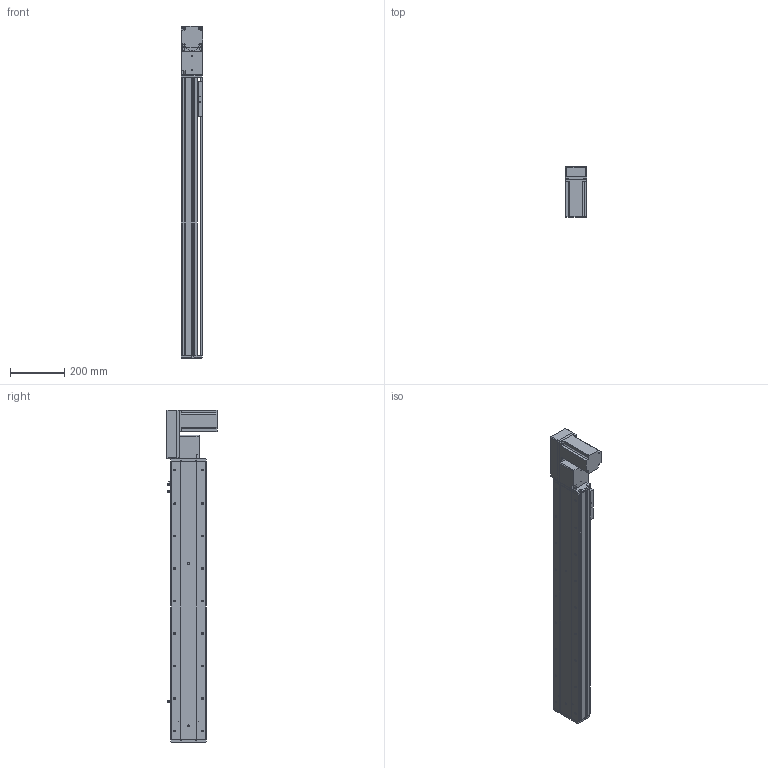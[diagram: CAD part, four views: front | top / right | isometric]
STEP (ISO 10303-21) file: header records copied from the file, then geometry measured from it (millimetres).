
FILE_DESCRIPTION (( 'STEP AP214' ), '1' );
FILE_NAME ('KSD130B-S800-MRB-CM.STEP', '2019-09-21T06:55:50', ( '微软用户' ), ( '微软中国' ), 'SwSTEP 2.0', 'SolidWorks 2014', '' );
FILE_SCHEMA (( 'AUTOMOTIVE_DESIGN' ));
Length unit declared in the file: millimetre
Products named in the file (12): 台达ECMA－C20807AS伺服电机; 130宽模组保护罩上下左右折-同步带; 130宽模组马达安装板连板左右折同步带; 覜茼え100遵圉猾敕; U倰嫖萇EEㄜSX672; 130宽盖板半封闭同步带-800行程; 130宽马达安装板同步带右-改镜向_默认<按加工>; 130宽马达安装板同步带半封闭; 130宽同步带安装座半封闭; 130宽端盖同步带半封闭; 130宽底板半封闭同步带-800行程; KSD130B-S800-MRB-CM
Assembly tree (13 placements, depth 2):
  KSD130B-S800-MRB-CM
    130宽底板半封闭同步带-800行程
    130宽端盖同步带半封闭
    130宽同步带安装座半封闭
    130宽马达安装板同步带半封闭
    130宽马达安装板同步带右-改镜向_默认<按加工>
    130宽盖板半封闭同步带-800行程
    U倰嫖萇EEㄜSX672  x3
    覜茼え100遵圉猾敕
    130宽模组马达安装板连板左右折同步带
    130宽模组保护罩上下左右折-同步带
    台达ECMA－C20807AS伺服电机
Bounding box: 81 x 184.8 x 1227 mm (x, y, z)
Volume: 4448918.3 mm3; surface area: 1196266.6 mm2
Topology: 14 solids, 14 shells, 1487 faces, 4221 edges, 2701 vertices
Faces by surface type: cylinder 706, plane 618, cone 163
Entity records: 48399 total; most frequent: CARTESIAN_POINT 8862, DIRECTION 7387, ORIENTED_EDGE 7102, EDGE_CURVE 3551, AXIS2_PLACEMENT_3D 2686, VERTEX_POINT 2325, VECTOR 2015, LINE 2015
